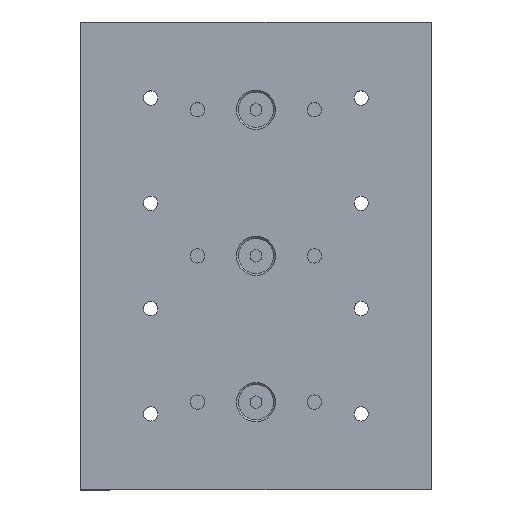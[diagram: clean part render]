
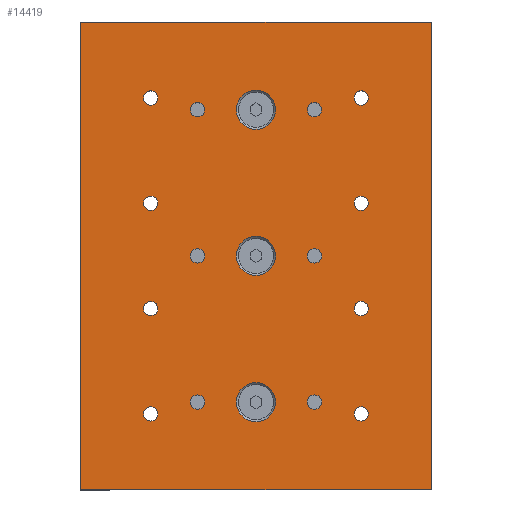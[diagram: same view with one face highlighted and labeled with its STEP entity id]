
A CAD part, top view. The second image highlights one B-rep face of the part: STEP entity #14419.
In plain terms, the highlighted planar face has unit normal (0, 0, 1) as drawn and (0, 1, 0) by its records, which use the part's own axes.
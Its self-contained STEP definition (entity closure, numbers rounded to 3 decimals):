
#268=FACE_BOUND('',#1606,.T.);
#269=FACE_BOUND('',#1607,.T.);
#270=FACE_BOUND('',#1608,.T.);
#271=FACE_BOUND('',#1609,.T.);
#272=FACE_BOUND('',#1610,.T.);
#273=FACE_BOUND('',#1611,.T.);
#274=FACE_BOUND('',#1612,.T.);
#275=FACE_BOUND('',#1613,.T.);
#276=FACE_BOUND('',#1614,.T.);
#277=FACE_BOUND('',#1615,.T.);
#278=FACE_BOUND('',#1616,.T.);
#279=FACE_BOUND('',#1617,.T.);
#280=FACE_BOUND('',#1618,.T.);
#281=FACE_BOUND('',#1619,.T.);
#282=FACE_BOUND('',#1620,.T.);
#283=FACE_BOUND('',#1621,.T.);
#284=FACE_BOUND('',#1622,.T.);
#812=FACE_OUTER_BOUND('',#1605,.T.);
#1605=EDGE_LOOP('',(#10584,#10585,#10586,#10587));
#1606=EDGE_LOOP('',(#10588));
#1607=EDGE_LOOP('',(#10589));
#1608=EDGE_LOOP('',(#10590));
#1609=EDGE_LOOP('',(#10591));
#1610=EDGE_LOOP('',(#10592));
#1611=EDGE_LOOP('',(#10593));
#1612=EDGE_LOOP('',(#10594));
#1613=EDGE_LOOP('',(#10595));
#1614=EDGE_LOOP('',(#10596));
#1615=EDGE_LOOP('',(#10597));
#1616=EDGE_LOOP('',(#10598));
#1617=EDGE_LOOP('',(#10599));
#1618=EDGE_LOOP('',(#10600));
#1619=EDGE_LOOP('',(#10601));
#1620=EDGE_LOOP('',(#10602));
#1621=EDGE_LOOP('',(#10603));
#1622=EDGE_LOOP('',(#10604));
#2333=CIRCLE('',#15568,1.23);
#2335=CIRCLE('',#15571,1.23);
#2337=CIRCLE('',#15574,1.23);
#2339=CIRCLE('',#15577,1.23);
#2341=CIRCLE('',#15580,1.23);
#2343=CIRCLE('',#15583,1.23);
#2345=CIRCLE('',#15586,1.23);
#2347=CIRCLE('',#15589,1.23);
#2349=CIRCLE('',#15592,1.23);
#2351=CIRCLE('',#15595,1.23);
#2353=CIRCLE('',#15598,1.23);
#2355=CIRCLE('',#15601,1.23);
#2357=CIRCLE('',#15604,1.23);
#2359=CIRCLE('',#15607,1.23);
#2361=CIRCLE('',#15610,3.35);
#2364=CIRCLE('',#15615,3.35);
#2367=CIRCLE('',#15620,3.35);
#2977=LINE('',#21445,#4563);
#2990=LINE('',#21470,#4576);
#2991=LINE('',#21473,#4577);
#2992=LINE('',#21474,#4578);
#4563=VECTOR('',#17862,10.);
#4576=VECTOR('',#17879,10.);
#4577=VECTOR('',#17882,10.);
#4578=VECTOR('',#17883,10.);
#6092=VERTEX_POINT('',#21323);
#6094=VERTEX_POINT('',#21329);
#6096=VERTEX_POINT('',#21335);
#6098=VERTEX_POINT('',#21341);
#6100=VERTEX_POINT('',#21347);
#6102=VERTEX_POINT('',#21353);
#6104=VERTEX_POINT('',#21359);
#6106=VERTEX_POINT('',#21365);
#6108=VERTEX_POINT('',#21371);
#6110=VERTEX_POINT('',#21377);
#6112=VERTEX_POINT('',#21383);
#6114=VERTEX_POINT('',#21389);
#6116=VERTEX_POINT('',#21395);
#6118=VERTEX_POINT('',#21401);
#6120=VERTEX_POINT('',#21407);
#6123=VERTEX_POINT('',#21417);
#6126=VERTEX_POINT('',#21427);
#6132=VERTEX_POINT('',#21442);
#6133=VERTEX_POINT('',#21444);
#6143=VERTEX_POINT('',#21468);
#6144=VERTEX_POINT('',#21472);
#7685=EDGE_CURVE('',#6092,#6092,#2333,.T.);
#7688=EDGE_CURVE('',#6094,#6094,#2335,.T.);
#7691=EDGE_CURVE('',#6096,#6096,#2337,.T.);
#7694=EDGE_CURVE('',#6098,#6098,#2339,.T.);
#7697=EDGE_CURVE('',#6100,#6100,#2341,.T.);
#7700=EDGE_CURVE('',#6102,#6102,#2343,.T.);
#7703=EDGE_CURVE('',#6104,#6104,#2345,.T.);
#7706=EDGE_CURVE('',#6106,#6106,#2347,.T.);
#7709=EDGE_CURVE('',#6108,#6108,#2349,.T.);
#7712=EDGE_CURVE('',#6110,#6110,#2351,.T.);
#7715=EDGE_CURVE('',#6112,#6112,#2353,.T.);
#7718=EDGE_CURVE('',#6114,#6114,#2355,.T.);
#7721=EDGE_CURVE('',#6116,#6116,#2357,.T.);
#7724=EDGE_CURVE('',#6118,#6118,#2359,.T.);
#7727=EDGE_CURVE('',#6120,#6120,#2361,.T.);
#7732=EDGE_CURVE('',#6123,#6123,#2364,.T.);
#7737=EDGE_CURVE('',#6126,#6126,#2367,.T.);
#7745=EDGE_CURVE('',#6132,#6133,#2977,.T.);
#7758=EDGE_CURVE('',#6132,#6143,#2990,.T.);
#7759=EDGE_CURVE('',#6144,#6143,#2991,.T.);
#7760=EDGE_CURVE('',#6133,#6144,#2992,.T.);
#10584=ORIENTED_EDGE('',*,*,#7758,.T.);
#10585=ORIENTED_EDGE('',*,*,#7759,.F.);
#10586=ORIENTED_EDGE('',*,*,#7760,.F.);
#10587=ORIENTED_EDGE('',*,*,#7745,.F.);
#10588=ORIENTED_EDGE('',*,*,#7685,.T.);
#10589=ORIENTED_EDGE('',*,*,#7688,.T.);
#10590=ORIENTED_EDGE('',*,*,#7691,.T.);
#10591=ORIENTED_EDGE('',*,*,#7694,.T.);
#10592=ORIENTED_EDGE('',*,*,#7697,.T.);
#10593=ORIENTED_EDGE('',*,*,#7700,.T.);
#10594=ORIENTED_EDGE('',*,*,#7703,.T.);
#10595=ORIENTED_EDGE('',*,*,#7706,.T.);
#10596=ORIENTED_EDGE('',*,*,#7709,.T.);
#10597=ORIENTED_EDGE('',*,*,#7712,.T.);
#10598=ORIENTED_EDGE('',*,*,#7715,.T.);
#10599=ORIENTED_EDGE('',*,*,#7718,.T.);
#10600=ORIENTED_EDGE('',*,*,#7721,.T.);
#10601=ORIENTED_EDGE('',*,*,#7724,.T.);
#10602=ORIENTED_EDGE('',*,*,#7727,.T.);
#10603=ORIENTED_EDGE('',*,*,#7732,.T.);
#10604=ORIENTED_EDGE('',*,*,#7737,.T.);
#13039=PLANE('',#15627);
#14419=ADVANCED_FACE('',(#812,#268,#269,#270,#271,#272,#273,#274,#275,#276,
#277,#278,#279,#280,#281,#282,#283,#284),#13039,.T.);
#15568=AXIS2_PLACEMENT_3D('',#21324,#17725,#17726);
#15571=AXIS2_PLACEMENT_3D('',#21330,#17732,#17733);
#15574=AXIS2_PLACEMENT_3D('',#21336,#17739,#17740);
#15577=AXIS2_PLACEMENT_3D('',#21342,#17746,#17747);
#15580=AXIS2_PLACEMENT_3D('',#21348,#17753,#17754);
#15583=AXIS2_PLACEMENT_3D('',#21354,#17760,#17761);
#15586=AXIS2_PLACEMENT_3D('',#21360,#17767,#17768);
#15589=AXIS2_PLACEMENT_3D('',#21366,#17774,#17775);
#15592=AXIS2_PLACEMENT_3D('',#21372,#17781,#17782);
#15595=AXIS2_PLACEMENT_3D('',#21378,#17788,#17789);
#15598=AXIS2_PLACEMENT_3D('',#21384,#17795,#17796);
#15601=AXIS2_PLACEMENT_3D('',#21390,#17802,#17803);
#15604=AXIS2_PLACEMENT_3D('',#21396,#17809,#17810);
#15607=AXIS2_PLACEMENT_3D('',#21402,#17816,#17817);
#15610=AXIS2_PLACEMENT_3D('',#21408,#17823,#17824);
#15615=AXIS2_PLACEMENT_3D('',#21418,#17835,#17836);
#15620=AXIS2_PLACEMENT_3D('',#21428,#17847,#17848);
#15627=AXIS2_PLACEMENT_3D('',#21471,#17880,#17881);
#17725=DIRECTION('center_axis',(0.,-1.,0.));
#17726=DIRECTION('ref_axis',(1.,0.,0.));
#17732=DIRECTION('center_axis',(0.,-1.,0.));
#17733=DIRECTION('ref_axis',(1.,0.,0.));
#17739=DIRECTION('center_axis',(0.,-1.,0.));
#17740=DIRECTION('ref_axis',(1.,0.,0.));
#17746=DIRECTION('center_axis',(0.,-1.,0.));
#17747=DIRECTION('ref_axis',(1.,0.,0.));
#17753=DIRECTION('center_axis',(0.,-1.,0.));
#17754=DIRECTION('ref_axis',(1.,0.,0.));
#17760=DIRECTION('center_axis',(0.,-1.,0.));
#17761=DIRECTION('ref_axis',(1.,0.,0.));
#17767=DIRECTION('center_axis',(0.,-1.,0.));
#17768=DIRECTION('ref_axis',(1.,0.,0.));
#17774=DIRECTION('center_axis',(0.,-1.,0.));
#17775=DIRECTION('ref_axis',(1.,0.,0.));
#17781=DIRECTION('center_axis',(0.,-1.,0.));
#17782=DIRECTION('ref_axis',(1.,0.,0.));
#17788=DIRECTION('center_axis',(0.,-1.,0.));
#17789=DIRECTION('ref_axis',(1.,0.,0.));
#17795=DIRECTION('center_axis',(0.,-1.,0.));
#17796=DIRECTION('ref_axis',(1.,0.,0.));
#17802=DIRECTION('center_axis',(0.,-1.,0.));
#17803=DIRECTION('ref_axis',(1.,0.,0.));
#17809=DIRECTION('center_axis',(0.,-1.,0.));
#17810=DIRECTION('ref_axis',(1.,0.,0.));
#17816=DIRECTION('center_axis',(0.,-1.,0.));
#17817=DIRECTION('ref_axis',(1.,0.,0.));
#17823=DIRECTION('center_axis',(0.,-1.,0.));
#17824=DIRECTION('ref_axis',(1.,0.,0.));
#17835=DIRECTION('center_axis',(0.,-1.,0.));
#17836=DIRECTION('ref_axis',(1.,0.,0.));
#17847=DIRECTION('center_axis',(0.,-1.,0.));
#17848=DIRECTION('ref_axis',(1.,0.,0.));
#17862=DIRECTION('',(1.,0.,0.));
#17879=DIRECTION('',(0.,0.,1.));
#17880=DIRECTION('center_axis',(0.,1.,0.));
#17881=DIRECTION('ref_axis',(-1.,0.,0.));
#17882=DIRECTION('',(-1.,0.,0.));
#17883=DIRECTION('',(0.,0.,1.));
#21323=CARTESIAN_POINT('',(10.771,16.,-27.));
#21324=CARTESIAN_POINT('Origin',(12.,16.,-27.));
#21329=CARTESIAN_POINT('',(46.771,16.,-27.));
#21330=CARTESIAN_POINT('Origin',(48.,16.,-27.));
#21335=CARTESIAN_POINT('',(10.771,16.,-9.));
#21336=CARTESIAN_POINT('Origin',(12.,16.,-9.));
#21341=CARTESIAN_POINT('',(46.771,16.,-9.));
#21342=CARTESIAN_POINT('Origin',(48.,16.,-9.));
#21347=CARTESIAN_POINT('',(10.771,16.,9.));
#21348=CARTESIAN_POINT('Origin',(12.,16.,9.));
#21353=CARTESIAN_POINT('',(46.771,16.,9.));
#21354=CARTESIAN_POINT('Origin',(48.,16.,9.));
#21359=CARTESIAN_POINT('',(10.771,16.,27.));
#21360=CARTESIAN_POINT('Origin',(12.,16.,27.));
#21365=CARTESIAN_POINT('',(46.771,16.,27.));
#21366=CARTESIAN_POINT('Origin',(48.,16.,27.));
#21371=CARTESIAN_POINT('',(18.771,16.,0.));
#21372=CARTESIAN_POINT('Origin',(20.,16.,0.));
#21377=CARTESIAN_POINT('',(38.771,16.,-25.));
#21378=CARTESIAN_POINT('Origin',(40.,16.,-25.));
#21383=CARTESIAN_POINT('',(18.771,16.,25.));
#21384=CARTESIAN_POINT('Origin',(20.,16.,25.));
#21389=CARTESIAN_POINT('',(18.771,16.,-25.));
#21390=CARTESIAN_POINT('Origin',(20.,16.,-25.));
#21395=CARTESIAN_POINT('',(38.771,16.,25.));
#21396=CARTESIAN_POINT('Origin',(40.,16.,25.));
#21401=CARTESIAN_POINT('',(38.771,16.,0.));
#21402=CARTESIAN_POINT('Origin',(40.,16.,0.));
#21407=CARTESIAN_POINT('',(26.65,16.,-25.));
#21408=CARTESIAN_POINT('Origin',(30.,16.,-25.));
#21417=CARTESIAN_POINT('',(26.65,16.,25.));
#21418=CARTESIAN_POINT('Origin',(30.,16.,25.));
#21427=CARTESIAN_POINT('',(26.65,16.,0.));
#21428=CARTESIAN_POINT('Origin',(30.,16.,0.));
#21442=CARTESIAN_POINT('',(0.,16.,-40.));
#21444=CARTESIAN_POINT('',(60.,16.,-40.));
#21445=CARTESIAN_POINT('',(60.,16.,-40.));
#21468=CARTESIAN_POINT('',(0.,16.,40.));
#21470=CARTESIAN_POINT('',(0.,16.,0.));
#21471=CARTESIAN_POINT('Origin',(60.,16.,0.));
#21472=CARTESIAN_POINT('',(60.,16.,40.));
#21473=CARTESIAN_POINT('',(60.,16.,40.));
#21474=CARTESIAN_POINT('',(60.,16.,0.));
